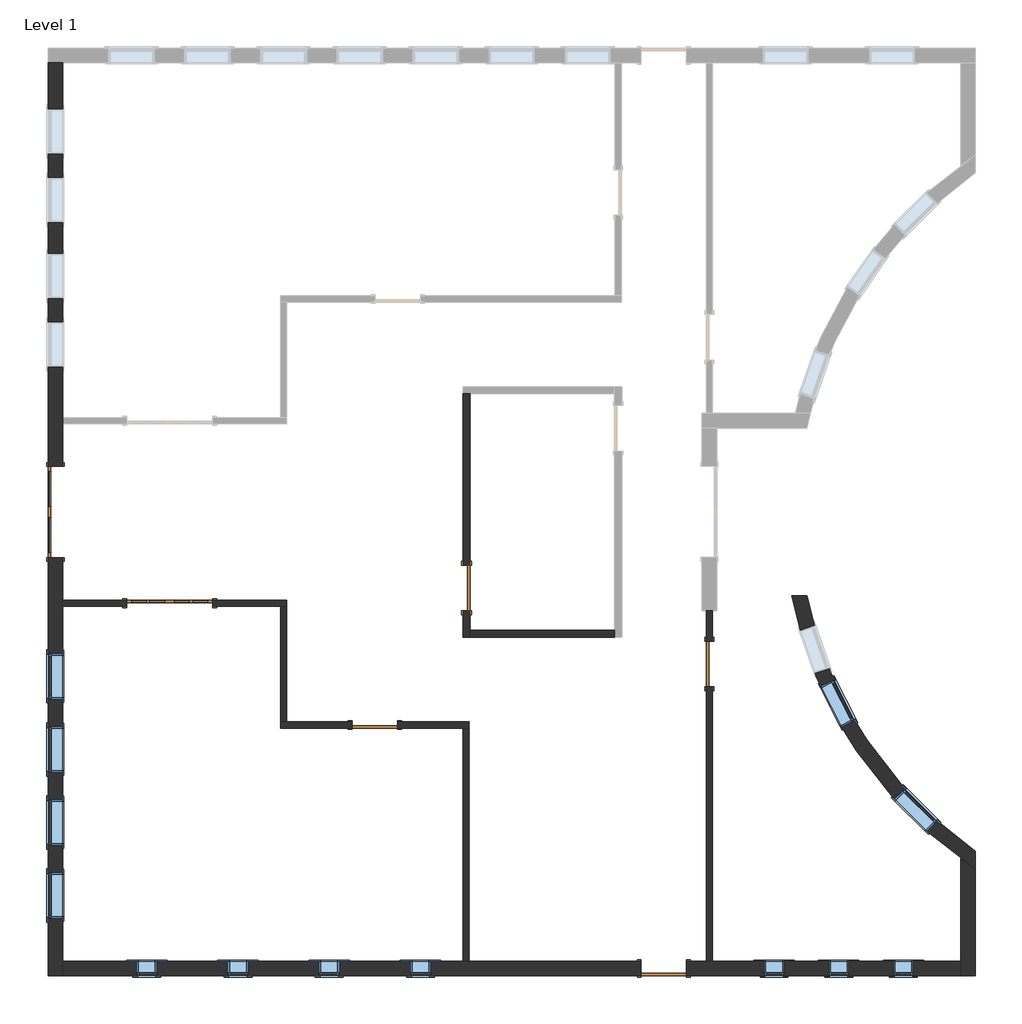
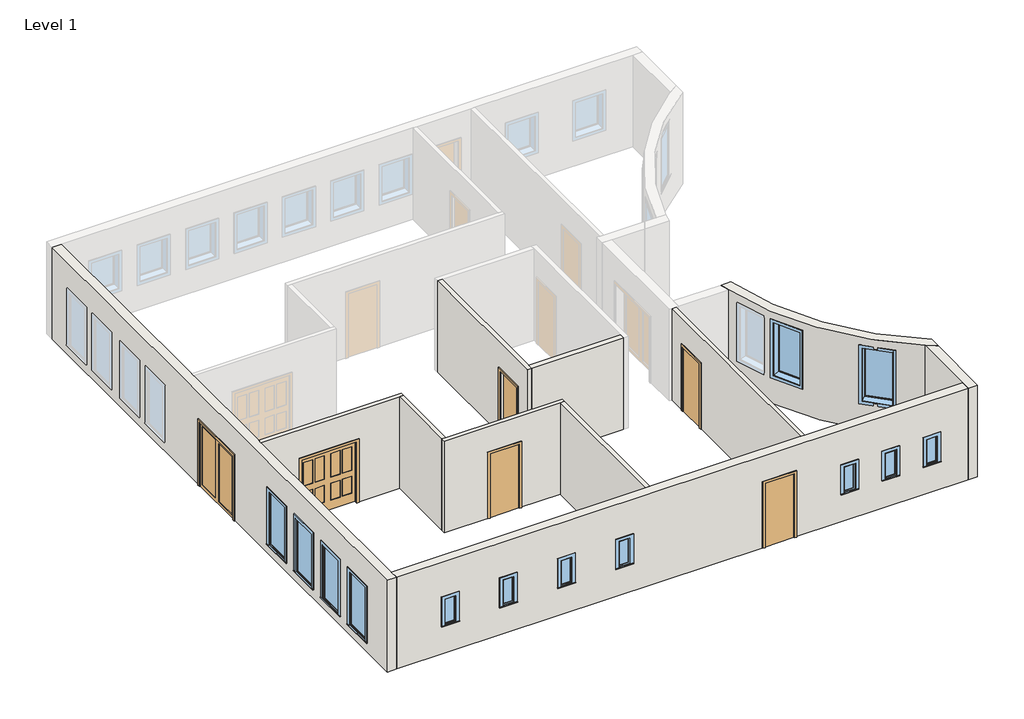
# One storey, part 1 of 2: 13 windows, 11 walls, 6 doors.
"""IFC4 building model written with IfcOpenShell, lengths in millimetres."""

from ifc_helpers import new_model, si_unit, frame, origin, origin_with_axes, place, context, project, spatial, polyline, circle_curve, outline, extrude, faceted_brep, transform, mapped, element, save
from ifc_brep_helpers import plane_surface, cylinder_surface, revolved_surface, advanced_brep
from components import door_e9d87526, door_c173eac2, door_7b231ec9, door_88503111, door_eb9f8b14, door_3dff5d0e, fixed_6768491c, fixed_431f5485

model = new_model("IFC4")

# Units and contexts
model_context = context("Model", 3, world=origin())
ifc_project = project(units=[si_unit("LENGTHUNIT", "METRE", prefix="MILLI")], contexts=[model_context])

# Site, building, storey
site = spatial("IfcSite", under=ifc_project)
building = spatial("IfcBuilding", under=site)
storey = spatial("IfcBuildingStorey", under=building, Name="Level 1", Elevation=0.0)

# Doors
placement = place(None, origin())
door_shape = door_e9d87526(model_context)
element("IfcDoor", 1, ObjectType="Double-Glass 1 : 72\" x 84\"", at=placement, inside=storey, context=model_context, shape_type="MappedRepresentation", body=[
    mapped(door_shape, transform((-10745.5063726, -435.5710073, 0.0), x_axis=(0.0, 1.0, 0.0), y_axis=(-1.0, 0.0, 0.0), z_axis=(0.0, 0.0, 1.0))),
])
door_2_shape = door_c173eac2(model_context)
element("IfcDoor", 2, ObjectType="Double-Panel 2 : 68\" x 80\"", at=placement, inside=storey, context=model_context, shape_type="MappedRepresentation", body=[
    mapped(door_2_shape, transform((-8461.8876226, -2264.3710073, 0.0), x_axis=(1.0, 0.0, 0.0), y_axis=(0.0, 1.0, 0.0), z_axis=(0.0, 0.0, 1.0))),
])
door_3_shape = door_7b231ec9(model_context)
element("IfcDoor", 3, ObjectType="Sgl Flush : 36\" x 84\"", at=placement, inside=storey, context=model_context, shape_type="MappedRepresentation", body=[
    mapped(door_3_shape, transform((1444.1123774, -9579.5710073, 0.0), x_axis=(-1.0, 0.0, 0.0), y_axis=(0.0, -1.0, 0.0), z_axis=(0.0, 0.0, 1.0))),
])
door_4_shape = door_88503111(model_context)
element("IfcDoor", 4, ObjectType="Sgl Flush : 36\" x 84\"", at=placement, inside=storey, context=model_context, shape_type="MappedRepresentation", body=[
    mapped(door_4_shape, transform((-4347.0876226, -4702.7710073, 0.0), x_axis=(-1.0, 0.0, 0.0), y_axis=(0.0, -1.0, 0.0), z_axis=(0.0, 0.0, 1.0))),
])
door_5_shape = door_eb9f8b14(model_context)
element("IfcDoor", 5, ObjectType="Sgl Flush : 36\" x 84\"", at=placement, inside=storey, context=model_context, shape_type="MappedRepresentation", body=[
    mapped(door_5_shape, transform((2358.5123774, -3478.8085073, 0.0), x_axis=(0.0, -1.0, 0.0), y_axis=(1.0, 0.0, 0.0), z_axis=(0.0, 0.0, 1.0))),
])
door_6_shape = door_3dff5d0e(model_context)
element("IfcDoor", 6, ObjectType="Sgl Flush : 36\" x 84\"", at=placement, inside=storey, context=model_context, shape_type="MappedRepresentation", body=[
    mapped(door_6_shape, transform((-2508.7626226, -1959.5710073, 0.0), x_axis=(0.0, -1.0, 0.0), y_axis=(1.0, 0.0, 0.0), z_axis=(0.0, 0.0, 1.0))),
])

# Walls
element("IfcWall", 7, ObjectType="Generic - 12\" Masonry", at=placement, inside=storey, context=model_context, shape_type="Brep", body=[
    faceted_brep([(-10600.2501226, 478.8289927, 2133.6), (-10600.2501226, 478.8289927, 0.0), (-10600.2501226, 1331.3164927, 0.0), (-10600.2501226, 1455.1414927, 0.0), (-10600.2501226, 8560.7914927, 0.0), (-10600.2501226, 8560.7914927, 3048.0), (-10600.2501226, 1455.1414927, 3048.0), (-10600.2501226, 1331.3164927, 3048.0), (-10600.2501226, -2202.4585073, 3048.0), (-10600.2501226, -2326.2835073, 3048.0), (-10600.2501226, -9431.9335073, 3048.0), (-10600.2501226, -9727.2085073, 3048.0), (-10600.2501226, -9727.2085073, 0.0), (-10600.2501226, -9431.9335073, 0.0), (-10600.2501226, -2326.2835073, 0.0), (-10600.2501226, -2202.4585073, 0.0), (-10600.2501226, -1349.9710073, 0.0), (-10600.2501226, -1349.9710073, 2133.6), (-10600.2501226, 6727.2289927, 2133.6), (-10600.2501226, 7641.6289927, 2133.6), (-10600.2501226, 7641.6289927, 304.8), (-10600.2501226, 6727.2289927, 304.8), (-10600.2501226, 3831.6289927, 2133.6), (-10600.2501226, 4746.0289927, 2133.6), (-10600.2501226, 4746.0289927, 304.8), (-10600.2501226, 3831.6289927, 304.8), (-10600.2501226, 5355.6289927, 2133.6), (-10600.2501226, 6270.0289927, 2133.6), (-10600.2501226, 6270.0289927, 304.8), (-10600.2501226, 5355.6289927, 304.8), (-10600.2501226, 2460.0289927, 2133.6), (-10600.2501226, 3374.4289927, 2133.6), (-10600.2501226, 3374.4289927, 304.8), (-10600.2501226, 2460.0289927, 304.8), (-10600.2501226, -7659.3310073, 2133.6), (-10600.2501226, -7659.3310073, 304.8), (-10600.2501226, -8573.7310073, 304.8), (-10600.2501226, -8573.7310073, 2133.6), (-10600.2501226, -4733.2510073, 2133.6), (-10600.2501226, -4733.2510073, 304.8), (-10600.2501226, -5647.6510073, 304.8), (-10600.2501226, -5647.6510073, 2133.6), (-10600.2501226, -6196.2910073, 2133.6), (-10600.2501226, -6196.2910073, 304.8), (-10600.2501226, -7110.6910073, 304.8), (-10600.2501226, -7110.6910073, 2133.6), (-10600.2501226, -3270.2110073, 2133.6), (-10600.2501226, -3270.2110073, 304.8), (-10600.2501226, -4184.6110073, 304.8), (-10600.2501226, -4184.6110073, 2133.6), (-10895.5251226, 8560.7914927, 0.0), (-10895.5251226, 478.8289927, 0.0), (-10895.5251226, 478.8289927, 2133.6), (-10895.5251226, -1349.9710073, 2133.6), (-10895.5251226, -1349.9710073, 0.0), (-10895.5251226, -9727.2085073, 0.0), (-10895.5251226, -9727.2085073, 3048.0), (-10895.5251226, 8560.7914927, 3048.0), (-10895.5251226, 6727.2289927, 2133.6), (-10895.5251226, 6727.2289927, 304.8), (-10895.5251226, 7641.6289927, 304.8), (-10895.5251226, 7641.6289927, 2133.6), (-10895.5251226, 3831.6289927, 2133.6), (-10895.5251226, 3831.6289927, 304.8), (-10895.5251226, 4746.0289927, 304.8), (-10895.5251226, 4746.0289927, 2133.6), (-10895.5251226, 5355.6289927, 2133.6), (-10895.5251226, 5355.6289927, 304.8), (-10895.5251226, 6270.0289927, 304.8), (-10895.5251226, 6270.0289927, 2133.6), (-10895.5251226, 2460.0289927, 2133.6), (-10895.5251226, 2460.0289927, 304.8), (-10895.5251226, 3374.4289927, 304.8), (-10895.5251226, 3374.4289927, 2133.6), (-10895.5251226, -7659.3310073, 2133.6), (-10895.5251226, -8573.7310073, 2133.6), (-10895.5251226, -8573.7310073, 304.8), (-10895.5251226, -7659.3310073, 304.8), (-10895.5251226, -4733.2510073, 2133.6), (-10895.5251226, -5647.6510073, 2133.6), (-10895.5251226, -5647.6510073, 304.8), (-10895.5251226, -4733.2510073, 304.8), (-10895.5251226, -6196.2910073, 2133.6), (-10895.5251226, -7110.6910073, 2133.6), (-10895.5251226, -7110.6910073, 304.8), (-10895.5251226, -6196.2910073, 304.8), (-10895.5251226, -3270.2110073, 2133.6), (-10895.5251226, -4184.6110073, 2133.6), (-10895.5251226, -4184.6110073, 304.8), (-10895.5251226, -3270.2110073, 304.8)], [[[0, 1, 2, 3, 4, 5, 6, 7, 8, 9, 10, 11, 12, 13, 14, 15, 16, 17], [18, 19, 20, 21], [22, 23, 24, 25], [26, 27, 28, 29], [30, 31, 32, 33], [34, 35, 36, 37], [38, 39, 40, 41], [42, 43, 44, 45], [46, 47, 48, 49]], [[50, 51, 52, 53, 54, 55, 56, 57], [58, 59, 60, 61], [62, 63, 64, 65], [66, 67, 68, 69], [70, 71, 72, 73], [74, 75, 76, 77], [78, 79, 80, 81], [82, 83, 84, 85], [86, 87, 88, 89]], [[4, 3, 2, 1, 51, 50]], [[16, 15, 14, 13, 12, 55, 54]], [[11, 10, 9, 8, 7, 6, 5, 57, 56]], [[12, 11, 56, 55]], [[5, 4, 50, 57]], [[52, 51, 1, 0]], [[53, 52, 0, 17]], [[54, 53, 17, 16]], [[59, 58, 18, 21]], [[60, 59, 21, 20]], [[61, 60, 20, 19]], [[58, 61, 19, 18]], [[63, 62, 22, 25]], [[64, 63, 25, 24]], [[65, 64, 24, 23]], [[62, 65, 23, 22]], [[67, 66, 26, 29]], [[68, 67, 29, 28]], [[69, 68, 28, 27]], [[66, 69, 27, 26]], [[71, 70, 30, 33]], [[72, 71, 33, 32]], [[73, 72, 32, 31]], [[70, 73, 31, 30]], [[35, 34, 74, 77]], [[36, 35, 77, 76]], [[37, 36, 76, 75]], [[34, 37, 75, 74]], [[39, 38, 78, 81]], [[40, 39, 81, 80]], [[41, 40, 80, 79]], [[38, 41, 79, 78]], [[43, 42, 82, 85]], [[44, 43, 85, 84]], [[45, 44, 84, 83]], [[42, 45, 83, 82]], [[47, 46, 86, 89]], [[48, 47, 89, 88]], [[49, 48, 88, 87]], [[46, 49, 87, 86]]]),
])
element("IfcWall", 8, ObjectType="Generic - 12\" Masonry", at=placement, inside=storey, context=model_context, shape_type="Brep", body=[
    faceted_brep([(986.9123774, -9431.9335073, 2133.6), (986.9123774, -9431.9335073, 0.0), (-2456.3751226, -9431.9335073, 0.0), (-2580.2001226, -9431.9335073, 0.0), (-10600.2501226, -9431.9335073, 0.0), (-10600.2501226, -9431.9335073, 3048.0), (-2580.2001226, -9431.9335073, 3048.0), (-2456.3751226, -9431.9335073, 3048.0), (2296.5998774, -9431.9335073, 3048.0), (2420.4248774, -9431.9335073, 3048.0), (7392.4748774, -9431.9335073, 3048.0), (7392.4748774, -9431.9335073, 0.0), (2420.4248774, -9431.9335073, 0.0), (2296.5998774, -9431.9335073, 0.0), (1901.3123774, -9431.9335073, 0.0), (1901.3123774, -9431.9335073, 2133.6), (6041.5123774, -9431.9335073, 1828.8), (6041.5123774, -9431.9335073, 914.4), (6447.9123774, -9431.9335073, 914.4), (6447.9123774, -9431.9335073, 1828.8), (4746.1123774, -9431.9335073, 1828.8), (4746.1123774, -9431.9335073, 914.4), (5152.5123774, -9431.9335073, 914.4), (5152.5123774, -9431.9335073, 1828.8), (3450.7123774, -9431.9335073, 1828.8), (3450.7123774, -9431.9335073, 914.4), (3857.1123774, -9431.9335073, 914.4), (3857.1123774, -9431.9335073, 1828.8), (-3635.8876226, -9431.9335073, 1828.8), (-3635.8876226, -9431.9335073, 914.4), (-3229.4876226, -9431.9335073, 914.4), (-3229.4876226, -9431.9335073, 1828.8), (-5464.6876226, -9431.9335073, 1828.8), (-5464.6876226, -9431.9335073, 914.4), (-5058.2876226, -9431.9335073, 914.4), (-5058.2876226, -9431.9335073, 1828.8), (-7293.4876226, -9431.9335073, 1828.8), (-7293.4876226, -9431.9335073, 914.4), (-6887.0876226, -9431.9335073, 914.4), (-6887.0876226, -9431.9335073, 1828.8), (-9122.2876226, -9431.9335073, 1828.8), (-9122.2876226, -9431.9335073, 914.4), (-8715.8876226, -9431.9335073, 914.4), (-8715.8876226, -9431.9335073, 1828.8), (-10600.2501226, -9727.2085073, 0.0), (986.9123774, -9727.2085073, 0.0), (986.9123774, -9727.2085073, 2133.6), (1901.3123774, -9727.2085073, 2133.6), (1901.3123774, -9727.2085073, 0.0), (7392.4748774, -9727.2085073, 0.0), (7392.4748774, -9727.2085073, 3048.0), (-10600.2501226, -9727.2085073, 3048.0), (6041.5123774, -9727.2085073, 1828.8), (6447.9123774, -9727.2085073, 1828.8), (6447.9123774, -9727.2085073, 914.4), (6041.5123774, -9727.2085073, 914.4), (4746.1123774, -9727.2085073, 1828.8), (5152.5123774, -9727.2085073, 1828.8), (5152.5123774, -9727.2085073, 914.4), (4746.1123774, -9727.2085073, 914.4), (3450.7123774, -9727.2085073, 1828.8), (3857.1123774, -9727.2085073, 1828.8), (3857.1123774, -9727.2085073, 914.4), (3450.7123774, -9727.2085073, 914.4), (-3635.8876226, -9727.2085073, 1828.8), (-3229.4876226, -9727.2085073, 1828.8), (-3229.4876226, -9727.2085073, 914.4), (-3635.8876226, -9727.2085073, 914.4), (-5464.6876226, -9727.2085073, 1828.8), (-5058.2876226, -9727.2085073, 1828.8), (-5058.2876226, -9727.2085073, 914.4), (-5464.6876226, -9727.2085073, 914.4), (-7293.4876226, -9727.2085073, 1828.8), (-6887.0876226, -9727.2085073, 1828.8), (-6887.0876226, -9727.2085073, 914.4), (-7293.4876226, -9727.2085073, 914.4), (-9122.2876226, -9727.2085073, 1828.8), (-8715.8876226, -9727.2085073, 1828.8), (-8715.8876226, -9727.2085073, 914.4), (-9122.2876226, -9727.2085073, 914.4)], [[[0, 1, 2, 3, 4, 5, 6, 7, 8, 9, 10, 11, 12, 13, 14, 15], [16, 17, 18, 19], [20, 21, 22, 23], [24, 25, 26, 27], [28, 29, 30, 31], [32, 33, 34, 35], [36, 37, 38, 39], [40, 41, 42, 43]], [[44, 45, 46, 47, 48, 49, 50, 51], [52, 53, 54, 55], [56, 57, 58, 59], [60, 61, 62, 63], [64, 65, 66, 67], [68, 69, 70, 71], [72, 73, 74, 75], [76, 77, 78, 79]], [[4, 3, 2, 1, 45, 44]], [[14, 13, 12, 11, 49, 48]], [[10, 9, 8, 7, 6, 5, 51, 50]], [[5, 4, 44, 51]], [[11, 10, 50, 49]], [[46, 45, 1, 0]], [[47, 46, 0, 15]], [[48, 47, 15, 14]], [[17, 16, 52, 55]], [[18, 17, 55, 54]], [[19, 18, 54, 53]], [[16, 19, 53, 52]], [[21, 20, 56, 59]], [[22, 21, 59, 58]], [[23, 22, 58, 57]], [[20, 23, 57, 56]], [[25, 24, 60, 63]], [[26, 25, 63, 62]], [[27, 26, 62, 61]], [[24, 27, 61, 60]], [[29, 28, 64, 67]], [[30, 29, 67, 66]], [[31, 30, 66, 65]], [[28, 31, 65, 64]], [[33, 32, 68, 71]], [[34, 33, 71, 70]], [[35, 34, 70, 69]], [[32, 35, 69, 68]], [[37, 36, 72, 75]], [[38, 37, 75, 74]], [[39, 38, 74, 73]], [[36, 39, 73, 72]], [[41, 40, 76, 79]], [[42, 41, 79, 78]], [[43, 42, 78, 77]], [[40, 43, 77, 76]]]),
])
element("IfcWall", 9, ObjectType="Generic - 12\" Masonry", at=placement, inside=storey, context=model_context, shape_type="AdvancedBrep", body=[
    advanced_brep(
    [(7392.4748774, -7378.5850292, 0.0), (7392.4748774, -9431.9335073, 0.0), (7392.4748774, -9727.2085073, 0.0), (7392.4748774, -9727.2085073, 3048.0), (7392.4748774, -9431.9335073, 3048.0), (7392.4748774, -7378.5850292, 3048.0), (7687.7498774, -7582.8871074, 0.0), (7687.7498774, -7582.8871074, 3048.0), (7687.7498774, -9727.2085073, 3048.0), (7687.7498774, -9727.2085073, 0.0)],
    [
        (0, 1),
        (1, 2),
        (2, 3),
        (3, 4),
        (4, 5),
        (5, 0),
        (6, 7),
        (7, 8),
        (8, 9),
        (9, 6),
        (0, 6, circle_curve(frame((12414.6932373, -435.5710073, 0.0), z_axis=(0.0, 0.0, 1.0), x_axis=(1.0, 0.0, 0.0)), 8569.0210037)),
        (9, 2),
        (3, 8),
        (7, 5, circle_curve(frame((12414.6932373, -435.5710073, 3048.0), z_axis=(0.0, 0.0, -1.0), x_axis=(1.0, 0.0, 0.0)), 8569.0210037)),
    ],
    [
        plane_surface(frame((7392.4748774, 8846.8596294, 0.0), z_axis=(-1.0, 0.0, 0.0), x_axis=(0.0, -1.0, 0.0))),
        plane_surface(frame((7687.7498774, 8846.8596294, 0.0), z_axis=(1.0, 0.0, 0.0), x_axis=(0.0, 1.0, 0.0))),
        plane_surface(frame((7392.4748774, -7302.7510368, 0.0), z_axis=(0.0, 0.0, -1.0), x_axis=(1.0, 0.0, 0.0))),
        plane_surface(frame((7392.4748774, -9579.5710073, 3048.0), z_axis=(0.0, 0.0, 1.0), x_axis=(1.0, 0.0, 0.0))),
        plane_surface(frame((7540.1123774, -9727.2085073, 0.0), z_axis=(0.0, -1.0, 0.0), x_axis=(1.0, 0.0, 0.0))),
        revolved_surface(polyline([(20983.714241, -435.5710073, 3048.0), (20983.714241, -435.5710073, 0.0)]), (12414.6932373, -435.5710073, 0.0), (0.0, 0.0, 1.0)),
    ],
    [
        (0, [[1, 2, 3, 4, 5, 6]]),
        (1, [[7, 8, 9, 10]]),
        (2, [[-2, -1, 11, -10, 12]]),
        (3, [[-5, -4, 13, -8, 14]]),
        (4, [[-3, -12, -9, -13]]),
        (5, [[-6, -14, -7, -11]]),
    ],
),
])
element("IfcWall", 10, ObjectType="Generic - 12\" Masonry", at=placement, inside=storey, context=model_context, shape_type="AdvancedBrep", body=[
    advanced_brep(
    [(7687.7498774, -7226.0702089, 3048.0), (4313.5472948, -2116.7335073, 3048.0), (4012.2047005, -2116.7335073, 3048.0), (4076.7199892, -2412.0129973, 3048.0), (7392.4783745, -7378.5874332, 3048.0), (7687.7498774, -7582.8871074, 3048.0), (7687.7498774, -7226.0702089, 0.0), (7687.7498774, -7582.8871074, 0.0), (7392.4783745, -7378.5874332, 0.0), (4076.7199892, -2412.0129973, 0.0), (4012.2047005, -2116.7335073, 0.0), (4313.5472948, -2116.7335073, 0.0), (6922.7409562, -6623.7317256, 2743.2), (6273.4213207, -5979.9061506, 2743.2), (6273.4213207, -5979.9061506, 914.4), (6922.7409562, -6623.7317256, 914.4), (5269.4263488, -4606.9058088, 2743.2), (4852.7592551, -3792.9550161, 2743.2), (4852.7592551, -3792.9550161, 914.4), (5269.4263488, -4606.9058088, 914.4), (4758.4259955, -3571.8817152, 2743.2), (4459.0939332, -2707.8633842, 2743.2), (4459.0939332, -2707.8633842, 914.4), (4758.4259955, -3571.8817152, 914.4), (6714.5317839, -6833.7176427, 2743.2), (6714.5317839, -6833.7176427, 914.4), (6065.2121485, -6189.8920676, 914.4), (6065.2121485, -6189.8920676, 2743.2), (5006.1997431, -4741.6533461, 2743.2), (5006.1997431, -4741.6533461, 914.4), (4589.5326494, -3927.7025534, 914.4), (4589.5326494, -3927.7025534, 2743.2), (4479.0078605, -3668.6838358, 2743.2), (4479.0078605, -3668.6838358, 914.4), (4179.6757981, -2804.6655047, 914.4), (4179.6757981, -2804.6655047, 2743.2)],
    [
        (0, 1, circle_curve(frame((12414.6932373, -435.5710073, 3048.0), z_axis=(0.0, 0.0, -1.0), x_axis=(1.0, 0.0, 0.0)), 8273.7460037)),
        (1, 2),
        (2, 3, circle_curve(frame((12414.6932373, -435.5710073, 3048.0), z_axis=(0.0, 0.0, 1.0), x_axis=(1.0, 0.0, 0.0)), 8569.0210037)),
        (3, 4, circle_curve(frame((12414.6932373, -435.5710073, 3048.0), z_axis=(0.0, 0.0, 1.0), x_axis=(1.0, 0.0, 0.0)), 8569.0209957)),
        (4, 5, circle_curve(frame((12414.6932373, -435.5710073, 3048.0), z_axis=(0.0, 0.0, 1.0), x_axis=(1.0, 0.0, 0.0)), 8569.0209019)),
        (5, 0),
        (6, 7),
        (7, 8, circle_curve(frame((12414.6932373, -435.5710073, 0.0), z_axis=(0.0, 0.0, -1.0), x_axis=(1.0, 0.0, 0.0)), 8569.0210037)),
        (8, 9, circle_curve(frame((12414.6932373, -435.5710073, 0.0), z_axis=(0.0, 0.0, -1.0), x_axis=(1.0, 0.0, 0.0)), 8569.0209019)),
        (9, 10, circle_curve(frame((12414.6932373, -435.5710073, 0.0), z_axis=(0.0, 0.0, -1.0), x_axis=(1.0, 0.0, 0.0)), 8569.0209957)),
        (10, 11),
        (11, 6, circle_curve(frame((12414.6932373, -435.5710073, 0.0), z_axis=(0.0, 0.0, 1.0), x_axis=(1.0, 0.0, 0.0)), 8273.7460037)),
        (0, 6),
        (11, 1),
        (12, 13, circle_curve(frame((12414.6932373, -435.5710073, 2743.2), z_axis=(0.0, 0.0, -1.0), x_axis=(1.0, 0.0, 0.0)), 8273.7460037)),
        (13, 14),
        (14, 15, circle_curve(frame((12414.6932373, -435.5710073, 914.4), z_axis=(0.0, 0.0, 1.0), x_axis=(1.0, 0.0, 0.0)), 8273.7460037)),
        (15, 12),
        (16, 17, circle_curve(frame((12414.6932373, -435.5710073, 2743.2), z_axis=(0.0, 0.0, -1.0), x_axis=(1.0, 0.0, 0.0)), 8273.7460037)),
        (17, 18),
        (18, 19, circle_curve(frame((12414.6932373, -435.5710073, 914.4), z_axis=(0.0, 0.0, 1.0), x_axis=(1.0, 0.0, 0.0)), 8273.7460037)),
        (19, 16),
        (20, 21, circle_curve(frame((12414.6932373, -435.5710073, 2743.2), z_axis=(0.0, 0.0, -1.0), x_axis=(1.0, 0.0, 0.0)), 8273.7460037)),
        (21, 22),
        (22, 23, circle_curve(frame((12414.6932373, -435.5710073, 914.4), z_axis=(0.0, 0.0, 1.0), x_axis=(1.0, 0.0, 0.0)), 8273.7460037)),
        (23, 20),
        (2, 10),
        (7, 5),
        (24, 25),
        (25, 26, circle_curve(frame((12414.6932373, -435.5710073, 914.4), z_axis=(0.0, 0.0, -1.0), x_axis=(1.0, 0.0, 0.0)), 8569.0210037)),
        (26, 27),
        (27, 24, circle_curve(frame((12414.6932373, -435.5710073, 2743.2), z_axis=(0.0, 0.0, 1.0), x_axis=(1.0, 0.0, 0.0)), 8569.0210037)),
        (28, 29),
        (29, 30, circle_curve(frame((12414.6932373, -435.5710073, 914.4), z_axis=(0.0, 0.0, -1.0), x_axis=(1.0, 0.0, 0.0)), 8569.0210037)),
        (30, 31),
        (31, 28, circle_curve(frame((12414.6932373, -435.5710073, 2743.2), z_axis=(0.0, 0.0, 1.0), x_axis=(1.0, 0.0, 0.0)), 8569.0210037)),
        (32, 33),
        (33, 34, circle_curve(frame((12414.6932373, -435.5710073, 914.4), z_axis=(0.0, 0.0, -1.0), x_axis=(1.0, 0.0, 0.0)), 8569.0210037)),
        (34, 35),
        (35, 32, circle_curve(frame((12414.6932373, -435.5710073, 2743.2), z_axis=(0.0, 0.0, 1.0), x_axis=(1.0, 0.0, 0.0)), 8569.0210037)),
        (24, 12),
        (15, 25),
        (14, 26),
        (13, 27),
        (28, 16),
        (19, 29),
        (18, 30),
        (17, 31),
        (32, 20),
        (23, 33),
        (22, 34),
        (21, 35),
    ],
    [
        plane_surface(frame((20688.4392409, -435.5710073, 3048.0), z_axis=(0.0, 0.0, 1.0), x_axis=(0.0, -1.0, 0.0))),
        plane_surface(frame((20688.4392409, -435.5710073, 0.0), z_axis=(0.0, 0.0, -1.0), x_axis=(0.0, 1.0, 0.0))),
        revolved_surface(polyline([(20688.439241, -435.5710073, 0.0), (20688.439241, -435.5710073, 3048.0)]), (12414.6932373, -435.5710073, 0.0), (0.0, 0.0, -1.0)),
        cylinder_surface(frame((12414.6932373, -435.5710073, 0.0), z_axis=(0.0, 0.0, 1.0), x_axis=(1.0, 0.0, 0.0)), 8569.0210037),
        plane_surface(frame((7687.7498774, 8846.8596294, 0.0), z_axis=(1.0, 0.0, 0.0), x_axis=(0.0, 1.0, 0.0))),
        plane_surface(frame((3577.7123774, -2116.7335073, 0.0), z_axis=(0.0, 1.0, 0.0), x_axis=(-1.0, 0.0, 0.0))),
        plane_surface(frame((6714.5317839, -6833.7176427, 2743.2), z_axis=(-0.7101045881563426, 0.7040962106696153, 0.0), x_axis=(0.7040962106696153, 0.7101045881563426, 0.0))),
        plane_surface(frame((6714.5317839, -6833.7176427, 914.4), z_axis=(0.0, 0.0, 1.0000000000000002), x_axis=(0.7040962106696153, 0.7101045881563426, 0.0))),
        plane_surface(frame((6065.2121485, -6189.8920676, 914.4), z_axis=(0.7101045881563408, -0.7040962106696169, 0.0), x_axis=(0.7040962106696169, 0.7101045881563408, 0.0))),
        plane_surface(frame((6065.2121485, -6189.8920676, 2743.2), z_axis=(0.0, 0.0, -1.0), x_axis=(0.7040962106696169, 0.7101045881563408, 0.0))),
        plane_surface(frame((5006.1997431, -4741.6533461, 2743.2), z_axis=(-0.45567267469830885, 0.8901474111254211, 0.0), x_axis=(0.8901474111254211, 0.45567267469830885, 0.0))),
        plane_surface(frame((5006.1997431, -4741.6533461, 914.4), z_axis=(0.0, 0.0, 1.0000000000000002), x_axis=(0.8901474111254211, 0.45567267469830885, 0.0))),
        plane_surface(frame((4589.5326494, -3927.7025534, 914.4), z_axis=(0.45567267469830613, -0.8901474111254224, 0.0), x_axis=(0.8901474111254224, 0.45567267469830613, 0.0))),
        plane_surface(frame((4589.5326494, -3927.7025534, 2743.2), z_axis=(0.0, 0.0, -1.0), x_axis=(0.8901474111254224, 0.45567267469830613, 0.0))),
        plane_surface(frame((4479.0078605, -3668.6838358, 2743.2), z_axis=(-0.3273535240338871, 0.9449019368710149, 0.0), x_axis=(0.9449019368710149, 0.3273535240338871, 0.0))),
        plane_surface(frame((4479.0078605, -3668.6838358, 914.4), z_axis=(0.0, 0.0, 1.0), x_axis=(0.9449019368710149, 0.3273535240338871, 0.0))),
        plane_surface(frame((4179.6757981, -2804.6655047, 914.4), z_axis=(0.327353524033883, -0.9449019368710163, 0.0), x_axis=(0.9449019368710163, 0.327353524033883, 0.0))),
        plane_surface(frame((4179.6757981, -2804.6655047, 2743.2), z_axis=(0.0, 0.0, -1.0000000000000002), x_axis=(0.9449019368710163, 0.327353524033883, 0.0))),
    ],
    [
        (0, [[1, 2, 3, 4, 5, 6]]),
        (1, [[7, 8, 9, 10, 11, 12]]),
        (2, [[-1, 13, -12, 14], [15, 16, 17, 18], [19, 20, 21, 22], [23, 24, 25, 26]]),
        (3, [[-5, -4, -3, 27, -10, -9, -8, 28], [29, 30, 31, 32], [33, 34, 35, 36], [37, 38, 39, 40]]),
        (4, [[-6, -28, -7, -13]]),
        (5, [[-2, -14, -11, -27]]),
        (6, [[-29, 41, -18, 42]]),
        (7, [[-30, -42, -17, 43]]),
        (8, [[-31, -43, -16, 44]]),
        (9, [[-32, -44, -15, -41]]),
        (10, [[-33, 45, -22, 46]]),
        (11, [[-34, -46, -21, 47]]),
        (12, [[-35, -47, -20, 48]]),
        (13, [[-36, -48, -19, -45]]),
        (14, [[-37, 49, -26, 50]]),
        (15, [[-38, -50, -25, 51]]),
        (16, [[-39, -51, -24, 52]]),
        (17, [[-40, -52, -23, -49]]),
    ],
),
])
element("IfcWall", 11, ObjectType="Generic - 6\" Masonry", at=placement, inside=storey, context=model_context, shape_type="Brep", body=[
    faceted_brep([(-2437.3251226, -2945.4085073, 0.0), (-2437.3251226, -2802.5335073, 0.0), (-2437.3251226, -2416.7710073, 0.0), (-2437.3251226, -2416.7710073, 2133.6), (-2437.3251226, -1502.3710073, 2133.6), (-2437.3251226, -1502.3710073, 0.0), (-2437.3251226, 1931.3914927, 0.0), (-2437.3251226, 1931.3914927, 3048.0), (-2437.3251226, -2802.5335073, 3048.0), (-2437.3251226, -2945.4085073, 3048.0), (-2580.2001226, -2416.7710073, 2133.6), (-2580.2001226, -2416.7710073, 0.0), (-2580.2001226, -2945.4085073, 0.0), (-2580.2001226, -2945.4085073, 3048.0), (-2580.2001226, 1931.3914927, 3048.0), (-2580.2001226, 1931.3914927, 0.0), (-2580.2001226, -1502.3710073, 0.0), (-2580.2001226, -1502.3710073, 2133.6)], [[[0, 1, 2, 3, 4, 5, 6, 7, 8, 9]], [[10, 11, 12, 13, 14, 15, 16, 17]], [[12, 11, 2, 1, 0]], [[16, 15, 6, 5]], [[9, 8, 7, 14, 13]], [[0, 9, 13, 12]], [[7, 6, 15, 14]], [[3, 2, 11, 10]], [[4, 3, 10, 17]], [[5, 4, 17, 16]]]),
])
element("IfcWall", 12, ObjectType="Generic - 6\" Masonry", at=placement, inside=storey, context=model_context, shape_type="SweptSolid", body=[
    extrude(outline(polyline([(-2437.3251226, -2802.5335073), (458.2748774, -2802.5335073), (458.2748774, -2945.4085073), (-2437.3251226, -2945.4085073), (-2437.3251226, -2802.5335073)])), origin_with_axes(), (0.0, 0.0, 1.0), 3048.0),
])
element("IfcWall", 13, ObjectType="Interior - 4 7/8\" Partition (1-hr)", at=placement, inside=storey, context=model_context, shape_type="Brep", body=[
    faceted_brep([(-10600.2501226, -2326.2835073, 3048.0), (-6237.8001226, -2326.2835073, 3048.0), (-6113.9751226, -2326.2835073, 3048.0), (-6113.9751226, -2202.4585073, 3048.0), (-10600.2501226, -2202.4585073, 3048.0), (-10600.2501226, -2326.2835073, 0.0), (-9325.4876226, -2326.2835073, 0.0), (-9325.4876226, -2326.2835073, 2032.0), (-7598.2876226, -2326.2835073, 2032.0), (-7598.2876226, -2326.2835073, 0.0), (-6237.8001226, -2326.2835073, 0.0), (-6113.9751226, -2326.2835073, 0.0), (-6113.9751226, -2202.4585073, 0.0), (-7598.2876226, -2202.4585073, 0.0), (-7598.2876226, -2202.4585073, 2032.0), (-9325.4876226, -2202.4585073, 2032.0), (-9325.4876226, -2202.4585073, 0.0), (-10600.2501226, -2202.4585073, 0.0)], [[[0, 1, 2, 3, 4]], [[2, 1, 0, 5, 6, 7, 8, 9, 10, 11]], [[4, 3, 12, 13, 14, 15, 16, 17]], [[12, 11, 10, 9, 13]], [[5, 17, 16, 6]], [[2, 11, 12, 3]], [[5, 0, 4, 17]], [[8, 14, 13, 9]], [[14, 8, 7, 15]], [[15, 7, 6, 16]]]),
])
element("IfcWall", 14, ObjectType="Interior - 4 7/8\" Partition (1-hr)", at=placement, inside=storey, context=model_context, shape_type="Brep", body=[
    faceted_brep([(-6237.8001226, -4764.6835073, 0.0), (-4804.2876226, -4764.6835073, 0.0), (-4804.2876226, -4764.6835073, 2133.6), (-3889.8876226, -4764.6835073, 2133.6), (-3889.8876226, -4764.6835073, 0.0), (-2580.2001226, -4764.6835073, 0.0), (-2456.3751226, -4764.6835073, 0.0), (-2456.3751226, -4764.6835073, 3048.0), (-2580.2001226, -4764.6835073, 3048.0), (-6237.8001226, -4764.6835073, 3048.0), (-4804.2876226, -4640.8585073, 2133.6), (-4804.2876226, -4640.8585073, 0.0), (-6113.9751226, -4640.8585073, 0.0), (-6237.8001226, -4640.8585073, 0.0), (-6237.8001226, -4640.8585073, 3048.0), (-6113.9751226, -4640.8585073, 3048.0), (-2456.3751226, -4640.8585073, 3048.0), (-2456.3751226, -4640.8585073, 0.0), (-3889.8876226, -4640.8585073, 0.0), (-3889.8876226, -4640.8585073, 2133.6)], [[[0, 1, 2, 3, 4, 5, 6, 7, 8, 9]], [[10, 11, 12, 13, 14, 15, 16, 17, 18, 19]], [[13, 12, 11, 1, 0]], [[18, 17, 6, 5, 4]], [[9, 8, 7, 16, 15, 14]], [[7, 6, 17, 16]], [[0, 9, 14, 13]], [[2, 1, 11, 10]], [[3, 2, 10, 19]], [[4, 3, 19, 18]]]),
])
element("IfcWall", 15, ObjectType="Interior - 4 7/8\" Partition (1-hr)", at=placement, inside=storey, context=model_context, shape_type="SweptSolid", body=[
    extrude(outline(polyline([(-2580.2001226, -9431.9335073), (-2580.2001226, -4764.6835073), (-2456.3751226, -4764.6835073), (-2456.3751226, -9431.9335073), (-2580.2001226, -9431.9335073)])), origin_with_axes(), (0.0, 0.0, 1.0), 3048.0),
])
element("IfcWall", 16, ObjectType="Interior - 4 7/8\" Partition (1-hr)", at=placement, inside=storey, context=model_context, shape_type="SweptSolid", body=[
    extrude(outline(polyline([(-6113.9751226, -2326.2835073), (-6113.9751226, -4640.8585073), (-6237.8001226, -4640.8585073), (-6237.8001226, -2326.2835073), (-6113.9751226, -2326.2835073)])), origin_with_axes(), (0.0, 0.0, 1.0), 3048.0),
])
element("IfcWall", 17, ObjectType="Interior - 4 7/8\" Partition (1-hr)", at=placement, inside=storey, context=model_context, shape_type="SweptSolid", body=[
    extrude(outline(polyline([(-3936.0085073, 2133.6), (-3936.0085073, 0.0), (-9431.9335073, 0.0), (-9431.9335073, 3048.0), (-2412.0085073, 3048.0), (-2412.0085073, 0.0), (-3021.6085073, 0.0), (-3021.6085073, 2133.6), (-3936.0085073, 2133.6)])), frame((2296.5998774, 0.0, 0.0), z_axis=(1.0, 0.0, 0.0), x_axis=(0.0, 1.0, 0.0)), (0.0, 0.0, 1.0), 123.825),
])

# Windows
fixed_shape = fixed_6768491c(model_context)
element("IfcWindow", 18, ObjectType="Fixed : 36\"w x 72\"h", at=placement, inside=storey, context=model_context, shape_type="MappedRepresentation", body=[
    mapped(fixed_shape, transform((-10747.8876226, -3689.3110073, 0.0), x_axis=(0.0, 1.0, 0.0), y_axis=(-1.0, 0.0, 0.0), z_axis=(0.0, 0.0, 1.0))),
])
element("IfcWindow", 19, ObjectType="Fixed : 36\"w x 72\"h", at=placement, inside=storey, context=model_context, shape_type="MappedRepresentation", body=[
    mapped(fixed_shape, transform((-10747.8876226, -6615.3910073, 0.0), x_axis=(0.0, 1.0, 0.0), y_axis=(-1.0, 0.0, 0.0), z_axis=(0.0, 0.0, 1.0))),
])
element("IfcWindow", 20, ObjectType="Fixed : 36\"w x 72\"h", at=placement, inside=storey, context=model_context, shape_type="MappedRepresentation", body=[
    mapped(fixed_shape, transform((-10747.8876226, -5152.3510073, 0.0), x_axis=(0.0, 1.0, 0.0), y_axis=(-1.0, 0.0, 0.0), z_axis=(0.0, 0.0, 1.0))),
])
element("IfcWindow", 21, ObjectType="Fixed : 36\"w x 72\"h", at=placement, inside=storey, context=model_context, shape_type="MappedRepresentation", body=[
    mapped(fixed_shape, transform((-10747.8876226, -8078.4310073, 0.0), x_axis=(0.0, 1.0, 0.0), y_axis=(-1.0, 0.0, 0.0), z_axis=(0.0, 0.0, 1.0))),
])
element("IfcWindow", 22, ObjectType="Fixed : 36\"w x 72\"h", at=placement, inside=storey, context=model_context, shape_type="MappedRepresentation", body=[
    mapped(fixed_shape, transform((4947.0347925, -4301.1194033, 609.6), x_axis=(0.4556726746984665, -0.8901474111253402, 0.0), y_axis=(0.8901474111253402, 0.4556726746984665, 0.0), z_axis=(0.0, 0.0, 1.0))),
])
element("IfcWindow", 23, ObjectType="Fixed : 36\"w x 72\"h", at=placement, inside=storey, context=model_context, shape_type="MappedRepresentation", body=[
    mapped(fixed_shape, transform((6521.185119, -6433.4830698, 609.6), x_axis=(0.7101045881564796, -0.7040962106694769, 0.0), y_axis=(0.7040962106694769, 0.7101045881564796, 0.0), z_axis=(0.0, 0.0, 1.0))),
])
fixed_2_shape = fixed_431f5485(model_context)
element("IfcWindow", 24, ObjectType="Fixed : 16\"w x 24\"h", at=placement, inside=storey, context=model_context, shape_type="MappedRepresentation", body=[
    mapped(fixed_2_shape, transform((-8957.1876226, -9579.5710073, 0.0), x_axis=(-1.0, 0.0, 0.0), y_axis=(0.0, -1.0, 0.0), z_axis=(0.0, 0.0, 1.0))),
])
element("IfcWindow", 25, ObjectType="Fixed : 16\"w x 24\"h", at=placement, inside=storey, context=model_context, shape_type="MappedRepresentation", body=[
    mapped(fixed_2_shape, transform((-7128.3876226, -9579.5710073, 0.0), x_axis=(-1.0, 0.0, 0.0), y_axis=(0.0, -1.0, 0.0), z_axis=(0.0, 0.0, 1.0))),
])
element("IfcWindow", 26, ObjectType="Fixed : 16\"w x 24\"h", at=placement, inside=storey, context=model_context, shape_type="MappedRepresentation", body=[
    mapped(fixed_2_shape, transform((-5299.5876226, -9579.5710073, 0.0), x_axis=(-1.0, 0.0, 0.0), y_axis=(0.0, -1.0, 0.0), z_axis=(0.0, 0.0, 1.0))),
])
element("IfcWindow", 27, ObjectType="Fixed : 16\"w x 24\"h", at=placement, inside=storey, context=model_context, shape_type="MappedRepresentation", body=[
    mapped(fixed_2_shape, transform((-3470.7876226, -9579.5710073, 0.0), x_axis=(-1.0, 0.0, 0.0), y_axis=(0.0, -1.0, 0.0), z_axis=(0.0, 0.0, 1.0))),
])
element("IfcWindow", 28, ObjectType="Fixed : 16\"w x 24\"h", at=placement, inside=storey, context=model_context, shape_type="MappedRepresentation", body=[
    mapped(fixed_2_shape, transform((3615.8123774, -9579.5710073, 0.0), x_axis=(-1.0, 0.0, 0.0), y_axis=(0.0, -1.0, 0.0), z_axis=(0.0, 0.0, 1.0))),
])
element("IfcWindow", 29, ObjectType="Fixed : 16\"w x 24\"h", at=placement, inside=storey, context=model_context, shape_type="MappedRepresentation", body=[
    mapped(fixed_2_shape, transform((4911.2123774, -9579.5710073, 0.0), x_axis=(-1.0, 0.0, 0.0), y_axis=(0.0, -1.0, 0.0), z_axis=(0.0, 0.0, 1.0))),
])
element("IfcWindow", 30, ObjectType="Fixed : 16\"w x 24\"h", at=placement, inside=storey, context=model_context, shape_type="MappedRepresentation", body=[
    mapped(fixed_2_shape, transform((6206.6123774, -9579.5710073, 0.0), x_axis=(-1.0, 0.0, 0.0), y_axis=(0.0, -1.0, 0.0), z_axis=(0.0, 0.0, 1.0))),
])

save(model, "model.ifc")
